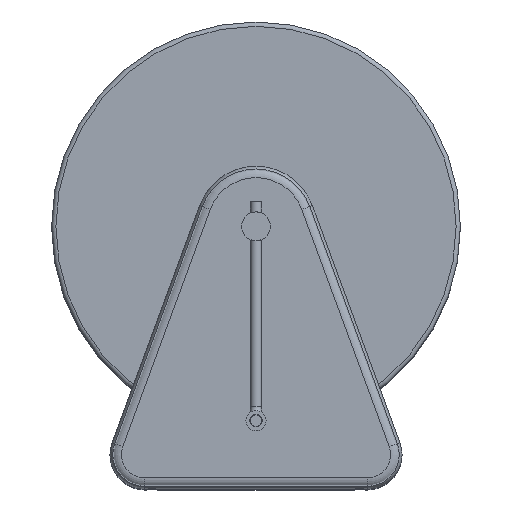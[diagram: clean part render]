
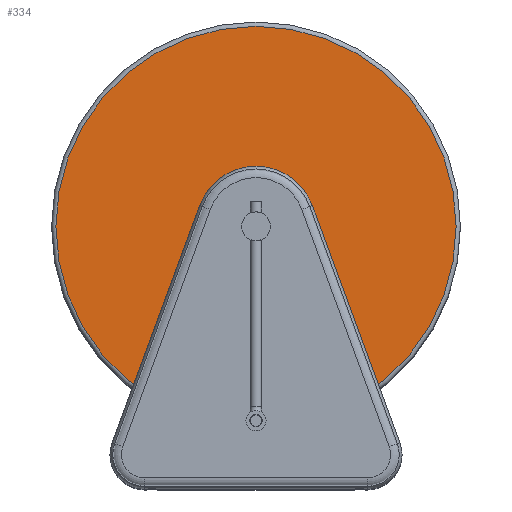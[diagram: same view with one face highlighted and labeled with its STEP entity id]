
A CAD part, top view. The second image highlights one B-rep face of the part: STEP entity #334.
In plain terms, the highlighted planar face has unit normal (0, 0, 1).
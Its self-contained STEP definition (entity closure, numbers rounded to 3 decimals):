
#334 = ADVANCED_FACE( '', ( #703, #704 ), #705, .T. );
#703 = FACE_OUTER_BOUND( '', #1598, .T. );
#704 = FACE_BOUND( '', #1599, .T. );
#705 = PLANE( '', #1600 );
#1598 = EDGE_LOOP( '', ( #2578 ) );
#1599 = EDGE_LOOP( '', ( #2579 ) );
#1600 = AXIS2_PLACEMENT_3D( '', #2580, #2581, #2582 );
#2578 = ORIENTED_EDGE( '', *, *, #3052, .T. );
#2579 = ORIENTED_EDGE( '', *, *, #3002, .T. );
#2580 = CARTESIAN_POINT( '', ( 0., 0., -54.674 ) );
#2581 = DIRECTION( '', ( 0., 0., 1. ) );
#2582 = DIRECTION( '', ( 1., 0., 0. ) );
#3002 = EDGE_CURVE( '', #3450, #3450, #3451, .F. );
#3052 = EDGE_CURVE( '', #3513, #3513, #3514, .T. );
#3450 = VERTEX_POINT( '', #4268 );
#3451 = CIRCLE( '', #4269, 15.875 );
#3513 = VERTEX_POINT( '', #4540 );
#3514 = CIRCLE( '', #4541, 220.65 );
#4268 = CARTESIAN_POINT( '', ( 15.875, 0., -54.674 ) );
#4269 = AXIS2_PLACEMENT_3D( '', #4924, #4925, #4926 );
#4540 = CARTESIAN_POINT( '', ( 220.65, 0., -54.674 ) );
#4541 = AXIS2_PLACEMENT_3D( '', #4985, #4986, #4987 );
#4924 = CARTESIAN_POINT( '', ( 0., 0., -54.674 ) );
#4925 = DIRECTION( '', ( 0., 0., 1. ) );
#4926 = DIRECTION( '', ( 1., 0., 0. ) );
#4985 = CARTESIAN_POINT( '', ( 0., 0., -54.674 ) );
#4986 = DIRECTION( '', ( 0., 0., 1. ) );
#4987 = DIRECTION( '', ( 1., 0., 0. ) );
